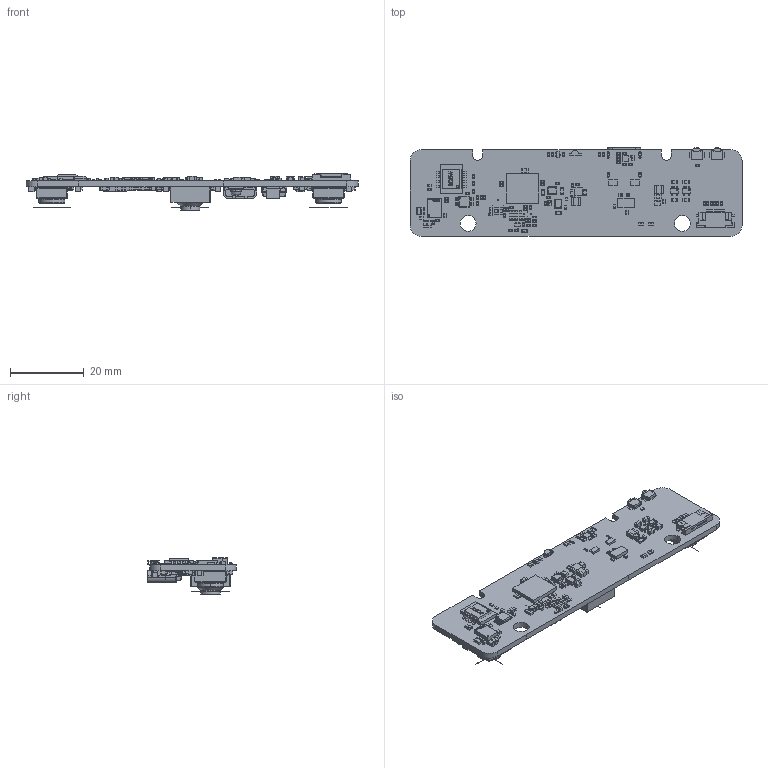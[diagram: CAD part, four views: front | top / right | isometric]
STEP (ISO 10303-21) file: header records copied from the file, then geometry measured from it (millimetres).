
FILE_DESCRIPTION(('Open CASCADE Model'),'2;1');
FILE_NAME('Open CASCADE Shape Model','2021-11-10T11:15:18',('Author'),( 'Open CASCADE'),'Open CASCADE STEP processor 6.8','Open CASCADE 6.8' ,'Unknown');
FILE_SCHEMA(('AUTOMOTIVE_DESIGN { 1 0 10303 214 1 1 1 1 }'));
Length unit declared in the file: millimetre
Products named in the file (477): PCB; Board; Open CASCADE STEP translator 6.8 1.1.1; SW2; B3U_3000P[]; SW1; R96; 6464560112; Extruded; 6464559952; R95; R94; 6464559472; 6464559312; R93; R68; R67; R1; R92; R91; R3; M5; Trans_ROHM_RE1C002UNTCL_eec; D3; User_Library-LED_0603_WS; User_Library-LED_0603_WS_Pocket002; User_Library-LED_0603_WS_Pad004; User_Library-LED_0603_WS_Fillet; User_Library-LED_0603_WS_Pocket001; User_Library-LED_0603_WS_Pad; U14; User_Library-SOIC8_Wide_5mmx5mm; U13; 6464553152; R88; R90; R89; C109; 6464560272; 6464557152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
Assembly tree (1190 placements, depth 6):
  PCB
    Board
      Open CASCADE STEP translator 6.8 1.1.1
    SW2
      B3U_3000P[]
    SW1
      B3U_3000P[]
    R96
      6464560112  x2
        Extruded
      6464559952
        Extruded
    R95
      6464560112  x2
        Extruded
      6464559952
        Extruded
    R94
      6464559472  x2
        Extruded
      6464559312
        Extruded
    R93
      6464559472  x2
        Extruded
      6464559312
        Extruded
    R68
      6464559472  x2
        Extruded
      6464559312
        Extruded
    R67
      6464559472  x2
        Extruded
      6464559312
        Extruded
    R1
      6464559472  x2
        Extruded
      6464559312
        Extruded
    R92
      6464559472  x2
        Extruded
      6464559312
        Extruded
    R91
      6464559472  x2
        Extruded
      6464559312
        Extruded
    R3
      6464560112  x2
        Extruded
      6464559952
        Extruded
    M5
      Trans_ROHM_RE1C002UNTCL_eec
      Trans_ROHM_RE1C002UNTCL_eec
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Bounding box: 90 x 24.06 x 9.77 mm (x, y, z)
Volume: 5294.1 mm3; surface area: 10212.5 mm2
Topology: 941 solids, 942 shells, 12712 faces, 31911 edges, 21210 vertices
Faces by surface type: plane 7292, bspline 4722, cylinder 594, sphere 54, torus 28, cone 20, revolution 2
Full cylindrical faces by diameter (mm): 0.122 x1, 0.204 x8, 0.4 x1, 4.3 x2
Entity records: 200774 total; most frequent: CARTESIAN_POINT 45380, ORIENTED_EDGE 27982, DIRECTION 23781, EDGE_CURVE 13992, LINE 11639, VECTOR 11639, VERTEX_POINT 9193, AXIS2_PLACEMENT_3D 6070
